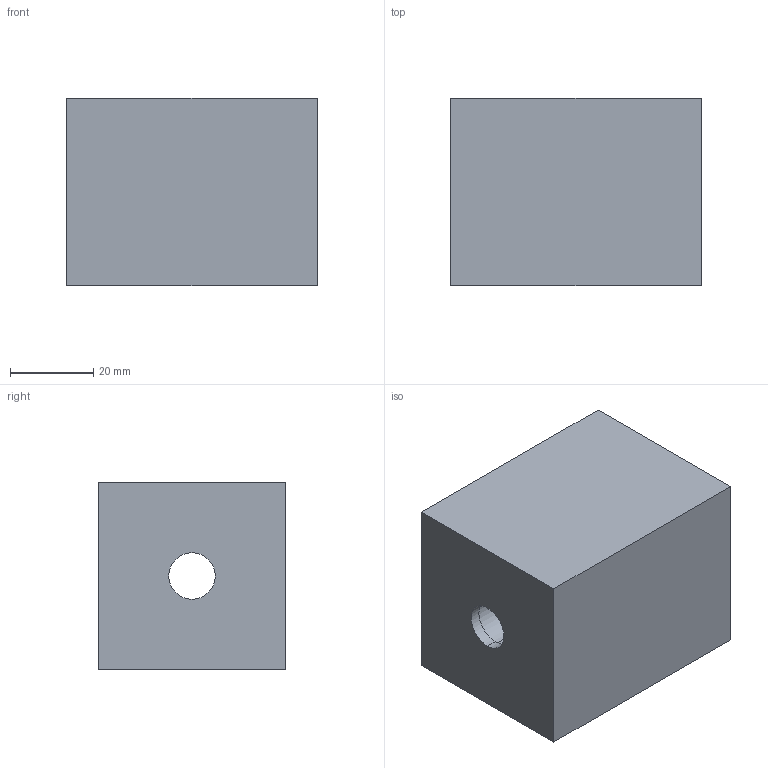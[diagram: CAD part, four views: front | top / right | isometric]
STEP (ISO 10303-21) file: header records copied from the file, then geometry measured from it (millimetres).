
FILE_DESCRIPTION (( 'STEP AP214' ), '1' );
FILE_NAME ('1-1375.4.STEP', '2017-04-28T09:08:09', ( '' ), ( '' ), 'SwSTEP 2.0', 'SolidWorks 2016', '' );
FILE_SCHEMA (( 'AUTOMOTIVE_DESIGN' ));
Length unit declared in the file: millimetre
Products named in the file (1): 1-1375.4
Bounding box: 60 x 45 x 45 mm (x, y, z)
Volume: 108453.6 mm3; surface area: 18107.3 mm2
Topology: 1 solids, 1 shells, 39 faces, 86 edges, 50 vertices
Faces by surface type: cylinder 18, torus 8, plane 7, cone 6
Entity records: 1384 total; most frequent: CARTESIAN_POINT 366, DIRECTION 204, ORIENTED_EDGE 172, EDGE_CURVE 86, AXIS2_PLACEMENT_3D 84, VERTEX_POINT 50, EDGE_LOOP 48, CIRCLE 44
